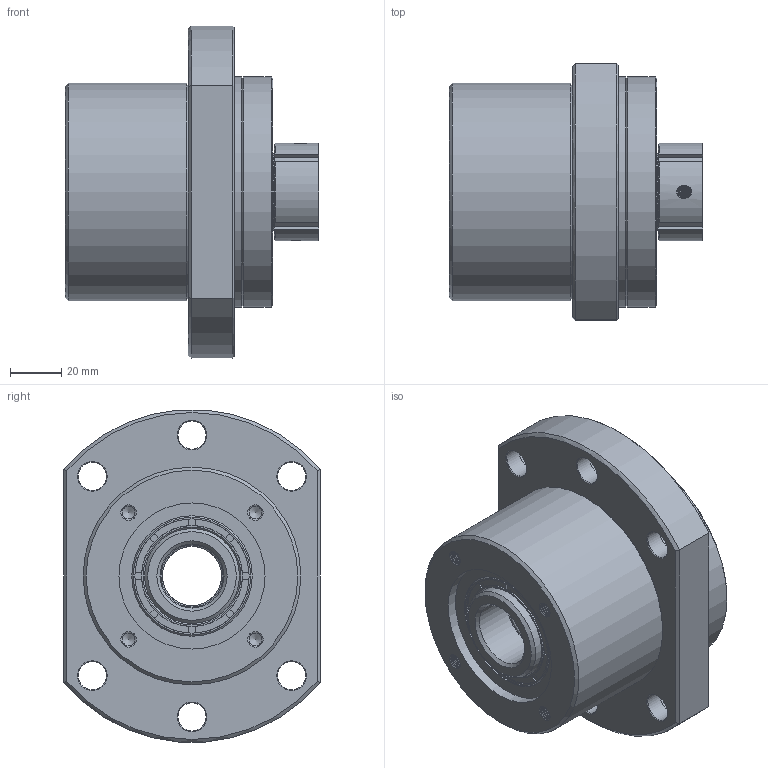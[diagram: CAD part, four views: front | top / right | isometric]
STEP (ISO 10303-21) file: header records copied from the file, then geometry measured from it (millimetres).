
FILE_DESCRIPTION(('STEP AP214'),'1');
FILE_NAME('WBK25DFD (2).stp','2016-10-05T11:30:20',(' '),(' '),'Spatial InterOp 3D',' ',' ');
FILE_SCHEMA(('automotive_design'));
Length unit declared in the file: millimetre
Products named in the file (3): Assembly7; WBK25DFD_1; WBK25DFD
Assembly tree (2 placements, depth 2):
  Assembly7
    WBK25DFD_1
    WBK25DFD
Bounding box: 99 x 100 x 129.59 mm (x, y, z)
Volume: 465362.9 mm3; surface area: 104791.6 mm2
Topology: 2 solids, 26 shells, 1168 faces, 2993 edges, 1810 vertices
Faces by surface type: cone 534, plane 282, torus 138, sphere 108, cylinder 106
Full cylindrical faces by diameter (mm): 4.2 x2, 5 x8, 6.6 x6, 8 x6, 9 x6, 11 x6, 13 x6, 14 x6, 17.5 x6, 25 x5, 26.2 x1, 30 x1, 37 x7, 39.4 x4, 44.6 x10, 47 x3, 50.8 x2, 57 x2, 60.8 x1, 62 x5, 83.8 x1, 85 x1, 90 x2
Entity records: 54389 total; most frequent: CARTESIAN_POINT 11254, DIRECTION 4722, ORIENTED_EDGE 4270, STYLED_ITEM 3249, PRESENTATION_STYLE_ASSIGNMENT 3249, COLOUR_RGB 3249, AXIS2_PLACEMENT_3D 2153, EDGE_CURVE 2135
